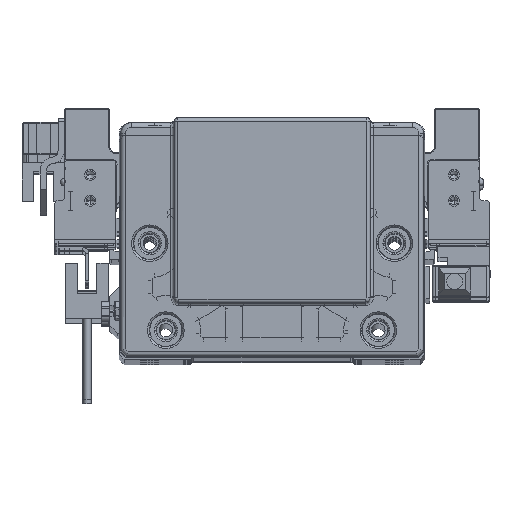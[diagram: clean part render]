
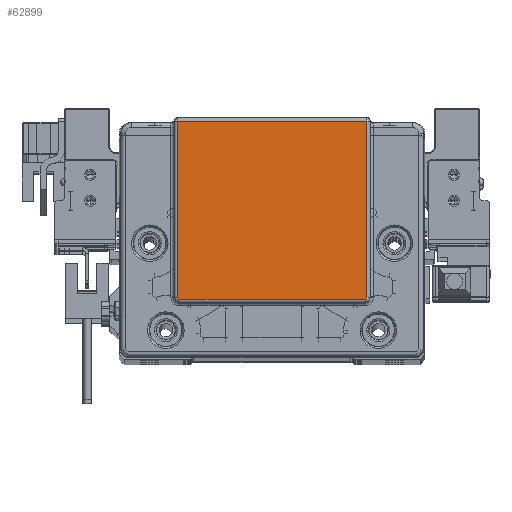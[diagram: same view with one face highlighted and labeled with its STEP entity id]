
A CAD part, top view. The second image highlights one B-rep face of the part: STEP entity #62899.
In plain terms, the highlighted planar face has unit normal (0, 0, 1) as drawn and (0, 0, -1) by its records, which use the part's own axes.
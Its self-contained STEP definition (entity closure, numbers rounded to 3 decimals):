
#1183 = LINE ( 'NONE', #27416, #84077 ) ;
#1938 = DIRECTION ( 'NONE',  ( -1., 0., 0. ) ) ;
#3477 = CARTESIAN_POINT ( 'NONE',  ( 29.286, -19.089, -2. ) ) ;
#4298 = CARTESIAN_POINT ( 'NONE',  ( -28.935, -19.232, -2. ) ) ;
#4321 = CARTESIAN_POINT ( 'NONE',  ( 29.372, -18.977, -2. ) ) ;
#5290 = B_SPLINE_CURVE_WITH_KNOTS ( 'NONE', 3,
 ( #57858, #10050, #10485, #50520, #24655, #29837, #17371, #83728, #36711, #23809, #16509, #37126, #17793, #63044, #50931, #43627, #18218, #82461, #69946, #44047, #10891, #64309, #76408, #70781, #62623 ),
 .UNSPECIFIED., .F., .F.,
 ( 4, 2, 1, 1, 1, 1, 2, 2, 2, 2, 2, 1, 2, 2, 4 ),
 ( 0., 0.25, 0.375, 0.437, 0.469, 0.484, 0.492, 0.5, 0.625, 0.687, 0.719, 0.734, 0.742, 0.75, 1. ),
 .UNSPECIFIED. ) ;
#6410 = VERTEX_POINT ( 'NONE', #4298 ) ;
#9927 = CARTESIAN_POINT ( 'NONE',  ( 29.395, -18.93, -2. ) ) ;
#10050 = CARTESIAN_POINT ( 'NONE',  ( -29.435, -18.801, -2. ) ) ;
#10485 = CARTESIAN_POINT ( 'NONE',  ( -29.421, -18.866, -2. ) ) ;
#10891 = CARTESIAN_POINT ( 'NONE',  ( -29.126, -19.195, -2. ) ) ;
#11652 = CARTESIAN_POINT ( 'NONE',  ( 29.435, -18.732, -2. ) ) ;
#12993 = CARTESIAN_POINT ( 'NONE',  ( 29.435, 0., -2. ) ) ;
#14013 = ORIENTED_EDGE ( 'NONE', *, *, #60493, .F. ) ;
#16390 = CARTESIAN_POINT ( 'NONE',  ( 28.935, -19.232, -2. ) ) ;
#16503 = VERTEX_POINT ( 'NONE', #19265 ) ;
#16509 = CARTESIAN_POINT ( 'NONE',  ( -29.289, -19.086, -2. ) ) ;
#17253 = VERTEX_POINT ( 'NONE', #55095 ) ;
#17371 = CARTESIAN_POINT ( 'NONE',  ( -29.308, -19.065, -2. ) ) ;
#17664 = CARTESIAN_POINT ( 'NONE',  ( 29.003, -19.232, -2. ) ) ;
#17793 = CARTESIAN_POINT ( 'NONE',  ( -29.266, -19.109, -2. ) ) ;
#18088 = CARTESIAN_POINT ( 'NONE',  ( 29.268, -19.105, -2. ) ) ;
#18218 = CARTESIAN_POINT ( 'NONE',  ( -29.169, -19.175, -2. ) ) ;
#18961 = ORIENTED_EDGE ( 'NONE', *, *, #39650, .T. ) ;
#19265 = CARTESIAN_POINT ( 'NONE',  ( -29.435, -18.732, -2. ) ) ;
#19301 = EDGE_LOOP ( 'NONE', ( #61028, #18961, #64413, #83020, #21997, #14013 ) ) ;
#21997 = ORIENTED_EDGE ( 'NONE', *, *, #25106, .T. ) ;
#23271 = CARTESIAN_POINT ( 'NONE',  ( 29.201, -19.157, -2. ) ) ;
#23687 = CARTESIAN_POINT ( 'NONE',  ( 29.386, -18.948, -2. ) ) ;
#23809 = CARTESIAN_POINT ( 'NONE',  ( -29.292, -19.083, -2. ) ) ;
#24655 = CARTESIAN_POINT ( 'NONE',  ( -29.36, -18.998, -2. ) ) ;
#25106 = EDGE_CURVE ( 'NONE', #43634, #6410, #56129, .T. ) ;
#25712 = VECTOR ( 'NONE', #36661, 1000. ) ;
#27351 = PLANE ( 'NONE',  #59321 ) ;
#27416 = CARTESIAN_POINT ( 'NONE',  ( 0., 36.185, -2. ) ) ;
#29837 = CARTESIAN_POINT ( 'NONE',  ( -29.326, -19.044, -2. ) ) ;
#30529 = CARTESIAN_POINT ( 'NONE',  ( 29.435, -18.785, -2. ) ) ;
#36575 = CARTESIAN_POINT ( 'NONE',  ( 29.399, -18.919, -2. ) ) ;
#36661 = DIRECTION ( 'NONE',  ( -1., 0., 0. ) ) ;
#36711 = CARTESIAN_POINT ( 'NONE',  ( -29.294, -19.08, -2. ) ) ;
#37126 = CARTESIAN_POINT ( 'NONE',  ( -29.282, -19.093, -2. ) ) ;
#37424 = CARTESIAN_POINT ( 'NONE',  ( 29.427, -18.849, -2. ) ) ;
#38378 = LINE ( 'NONE', #12993, #80406 ) ;
#39650 = EDGE_CURVE ( 'NONE', #17253, #50965, #1183, .T. ) ;
#41542 = DIRECTION ( 'NONE',  ( 0., 0., -1. ) ) ;
#43063 = CARTESIAN_POINT ( 'NONE',  ( 29.283, -19.092, -2. ) ) ;
#43627 = CARTESIAN_POINT ( 'NONE',  ( -29.18, -19.169, -2. ) ) ;
#43634 = VERTEX_POINT ( 'NONE', #66515 ) ;
#43919 = CARTESIAN_POINT ( 'NONE',  ( 29.279, -19.096, -2. ) ) ;
#44047 = CARTESIAN_POINT ( 'NONE',  ( -29.133, -19.192, -2. ) ) ;
#46756 = CARTESIAN_POINT ( 'NONE',  ( 0., 0., -2. ) ) ;
#47788 = VECTOR ( 'NONE', #47994, 1000. ) ;
#47994 = DIRECTION ( 'NONE',  ( 0., 1., 0. ) ) ;
#48824 = CARTESIAN_POINT ( 'NONE',  ( -29.435, 0., -2. ) ) ;
#50520 = CARTESIAN_POINT ( 'NONE',  ( -29.383, -18.956, -2. ) ) ;
#50801 = CARTESIAN_POINT ( 'NONE',  ( 29.288, -19.086, -2. ) ) ;
#50931 = CARTESIAN_POINT ( 'NONE',  ( -29.209, -19.151, -2. ) ) ;
#50965 = VERTEX_POINT ( 'NONE', #54308 ) ;
#53731 = DIRECTION ( 'NONE',  ( 1., 0., 0. ) ) ;
#54308 = CARTESIAN_POINT ( 'NONE',  ( 29.435, 36.185, -2. ) ) ;
#54340 = B_SPLINE_CURVE_WITH_KNOTS ( 'NONE', 3,
 ( #16390, #17664, #82334, #62487, #23271, #57313, #18088, #43919, #43063, #3477, #50801, #56457, #69814, #76703, #68962, #4321, #82753, #23687, #75857, #9927, #67383, #36575, #37424, #30529, #63745 ),
 .UNSPECIFIED., .F., .F.,
 ( 4, 2, 1, 1, 1, 1, 2, 2, 2, 2, 2, 1, 2, 2, 4 ),
 ( 0., 0.25, 0.375, 0.438, 0.469, 0.484, 0.492, 0.5, 0.625, 0.688, 0.719, 0.734, 0.742, 0.75, 1. ),
 .UNSPECIFIED. ) ;
#55095 = CARTESIAN_POINT ( 'NONE',  ( -29.435, 36.185, -2. ) ) ;
#56129 = LINE ( 'NONE', #64260, #25712 ) ;
#56457 = CARTESIAN_POINT ( 'NONE',  ( 29.296, -19.079, -2. ) ) ;
#57287 = EDGE_CURVE ( 'NONE', #16503, #17253, #61776, .T. ) ;
#57313 = CARTESIAN_POINT ( 'NONE',  ( 29.247, -19.124, -2. ) ) ;
#57858 = CARTESIAN_POINT ( 'NONE',  ( -29.435, -18.732, -2. ) ) ;
#59321 = AXIS2_PLACEMENT_3D ( 'NONE', #46756, #41542, #1938 ) ;
#60493 = EDGE_CURVE ( 'NONE', #16503, #6410, #5290, .T. ) ;
#61028 = ORIENTED_EDGE ( 'NONE', *, *, #57287, .T. ) ;
#61776 = LINE ( 'NONE', #48824, #47788 ) ;
#62487 = CARTESIAN_POINT ( 'NONE',  ( 29.158, -19.18, -2. ) ) ;
#62623 = CARTESIAN_POINT ( 'NONE',  ( -28.935, -19.232, -2. ) ) ;
#62899 = ADVANCED_FACE ( 'NONE', ( #72666 ), #27351, .T. ) ;
#63044 = CARTESIAN_POINT ( 'NONE',  ( -29.226, -19.14, -2. ) ) ;
#63745 = CARTESIAN_POINT ( 'NONE',  ( 29.435, -18.732, -2. ) ) ;
#64260 = CARTESIAN_POINT ( 'NONE',  ( 0., -19.232, -2. ) ) ;
#64309 = CARTESIAN_POINT ( 'NONE',  ( -29.121, -19.196, -2. ) ) ;
#64413 = ORIENTED_EDGE ( 'NONE', *, *, #78408, .T. ) ;
#66515 = CARTESIAN_POINT ( 'NONE',  ( 28.935, -19.232, -2. ) ) ;
#67383 = CARTESIAN_POINT ( 'NONE',  ( 29.397, -18.923, -2. ) ) ;
#68962 = CARTESIAN_POINT ( 'NONE',  ( 29.354, -19.006, -2. ) ) ;
#69814 = CARTESIAN_POINT ( 'NONE',  ( 29.312, -19.063, -2. ) ) ;
#69946 = CARTESIAN_POINT ( 'NONE',  ( -29.142, -19.188, -2. ) ) ;
#70781 = CARTESIAN_POINT ( 'NONE',  ( -28.988, -19.232, -2. ) ) ;
#72666 = FACE_OUTER_BOUND ( 'NONE', #19301, .T. ) ;
#73916 = VERTEX_POINT ( 'NONE', #11652 ) ;
#75857 = CARTESIAN_POINT ( 'NONE',  ( 29.391, -18.939, -2. ) ) ;
#76408 = CARTESIAN_POINT ( 'NONE',  ( -29.051, -19.224, -2. ) ) ;
#76703 = CARTESIAN_POINT ( 'NONE',  ( 29.343, -19.023, -2. ) ) ;
#78408 = EDGE_CURVE ( 'NONE', #50965, #73916, #38378, .T. ) ;
#78502 = DIRECTION ( 'NONE',  ( 0., -1., 0. ) ) ;
#79830 = EDGE_CURVE ( 'NONE', #43634, #73916, #54340, .T. ) ;
#80406 = VECTOR ( 'NONE', #78502, 1000. ) ;
#82334 = CARTESIAN_POINT ( 'NONE',  ( 29.069, -19.218, -2. ) ) ;
#82461 = CARTESIAN_POINT ( 'NONE',  ( -29.151, -19.183, -2. ) ) ;
#82753 = CARTESIAN_POINT ( 'NONE',  ( 29.378, -18.966, -2. ) ) ;
#83020 = ORIENTED_EDGE ( 'NONE', *, *, #79830, .F. ) ;
#83728 = CARTESIAN_POINT ( 'NONE',  ( -29.299, -19.076, -2. ) ) ;
#84077 = VECTOR ( 'NONE', #53731, 1000. ) ;
